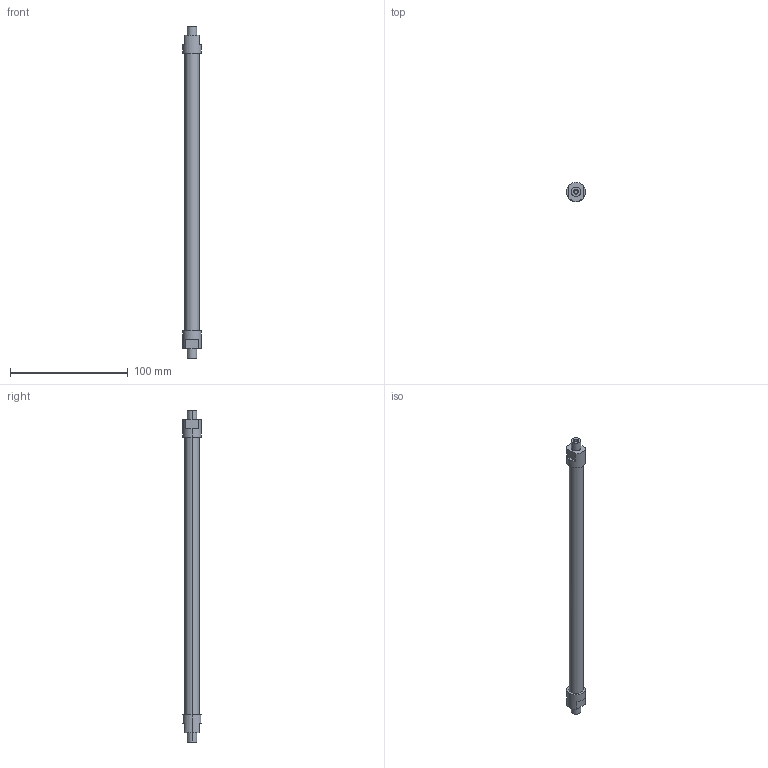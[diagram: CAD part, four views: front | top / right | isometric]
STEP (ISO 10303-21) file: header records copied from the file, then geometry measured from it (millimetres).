
FILE_DESCRIPTION(('STEP AP214'),'1');
FILE_NAME('ETT-R025G275.stp','2015-02-03T08:45:43',(' '),(' '),'Spatial InterOp 3D',' ',' ');
FILE_SCHEMA(('automotive_design'));
Length unit declared in the file: metre
Products named in the file (2): 1; 2
Bounding box: 16 x 16 x 282 mm (x, y, z)
Volume: 32852.4 mm3; surface area: 11737.5 mm2
Topology: 1 solids, 4 shells, 33 faces, 78 edges, 56 vertices
Faces by surface type: plane 17, cylinder 16
Entity records: 1292 total; most frequent: DIRECTION 192, CARTESIAN_POINT 169, ORIENTED_EDGE 144, AXIS2_PLACEMENT_3D 79, EDGE_CURVE 78, VERTEX_POINT 56, CIRCLE 44, EDGE_LOOP 40
